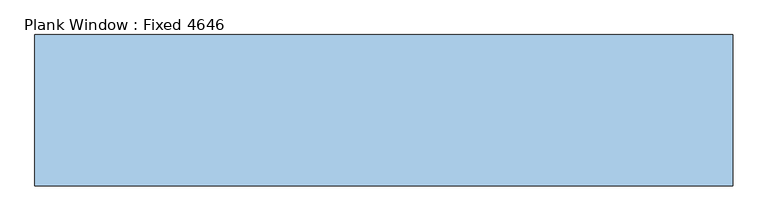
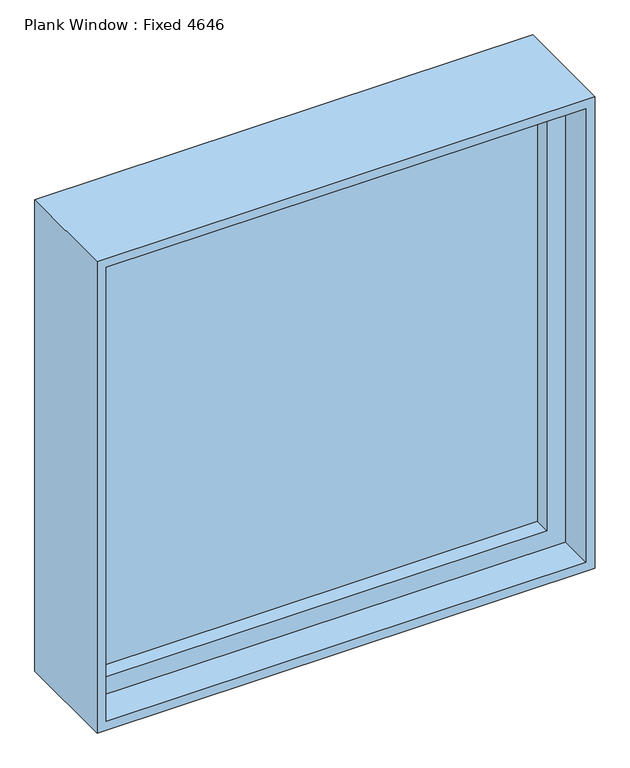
"""IFC4 building model written with IfcOpenShell, lengths in millimetres: window geometry, Plank Window : Fixed 4646."""

from ifc_helpers import new_model, si_unit, frame, origin, place, context, project, spatial, polyline, outline, extrude, source, transform, mapped, element, save


def plank_window_fixed_4646_613d52dc(model_context):
    return source(origin(), model_context, "Body", "SweptSolid", [
        extrude(outline(polyline([(609.6, -6.35), (-609.6, -6.35), (-609.6, 6.35), (609.6, 6.35), (609.6, -6.35)])), frame((0.0, 0.0, 990.6), z_axis=(0.0, 0.0, 1.0), x_axis=(1.0, 0.0, 0.0)), (0.0, 0.0, 1.0), 1219.2),
        extrude(outline(polyline([(2260.6, -660.4), (939.8, -660.4), (939.8, 660.4), (2260.6, 660.4), (2260.6, -660.4)]), holes=[polyline([(2209.8, -609.6), (2209.8, 609.6), (990.6, 609.6), (990.6, -609.6), (2209.8, -609.6)])]), frame((0.0, -50.8, 0.0), z_axis=(0.0, 1.0, 0.0), x_axis=(0.0, 0.0, 1.0)), (0.0, 0.0, 1.0), 101.6),
        extrude(outline(polyline([(2286.0, -685.8), (914.4, -685.8), (914.4, 685.8), (2286.0, 685.8), (2286.0, -685.8)]), holes=[polyline([(2260.6, -660.4), (2260.6, 660.4), (939.8, 660.4), (939.8, -660.4), (2260.6, -660.4)])]), frame((0.0, -148.43125, 0.0), z_axis=(0.0, 1.0, 0.0), x_axis=(0.0, 0.0, 1.0)), (0.0, 0.0, 1.0), 296.8625),
    ])


if __name__ == "__main__":
    model = new_model("IFC4")
    model_context = context("Model", 3, world=origin())
    ifc_project = project(units=[si_unit("LENGTHUNIT", "METRE", prefix="MILLI")], contexts=[model_context])
    site = spatial("IfcSite", under=ifc_project)
    building = spatial("IfcBuilding", under=site)
    placement = place(None, origin())
    plank_window_fixed_4646_shape = plank_window_fixed_4646_613d52dc(model_context)
    element("IfcWindow", 1, ObjectType="Plank Window : Fixed 4646", at=placement, inside=building, context=model_context, shape_type="MappedRepresentation", body=[
        mapped(plank_window_fixed_4646_shape, transform((0.0, 0.0, 0.0), x_axis=(1.0, 0.0, 0.0), y_axis=(0.0, 1.0, 0.0), z_axis=(0.0, 0.0, 1.0))),
    ])
    save(model, "model.ifc")
